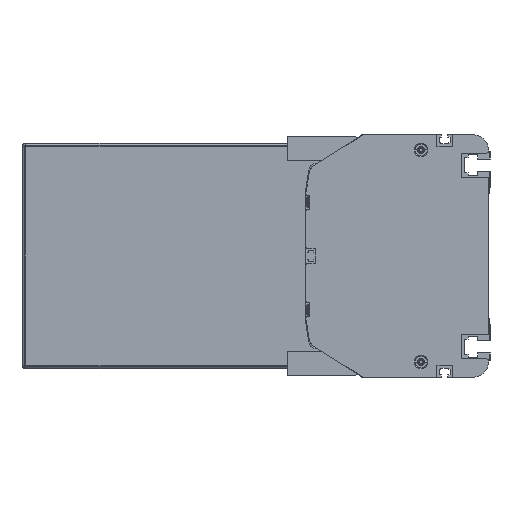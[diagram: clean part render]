
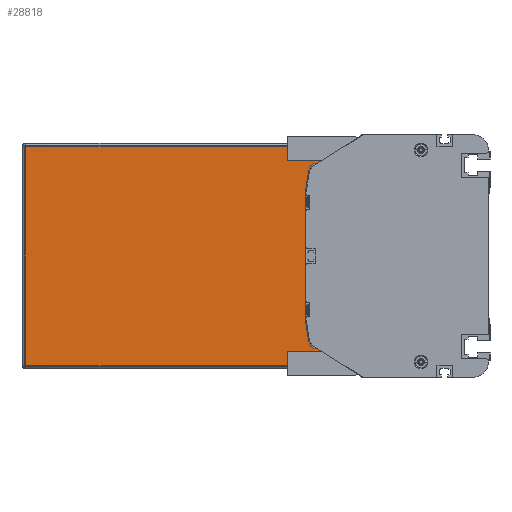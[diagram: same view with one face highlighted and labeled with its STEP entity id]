
A CAD part, left-side view. The second image highlights one B-rep face of the part: STEP entity #28818.
In plain terms, the highlighted planar face has unit normal (-1, 0, 0).
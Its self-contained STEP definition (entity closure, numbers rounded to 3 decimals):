
#779=DIRECTION('',(0.,-1.,0.));
#780=VECTOR('',#779,220.5);
#781=CARTESIAN_POINT('',(586.5,306.5,-72.));
#782=LINE('',#781,#780);
#4261=DIRECTION('',(0.,-1.,0.));
#4262=VECTOR('',#4261,28.728);
#4263=CARTESIAN_POINT('',(586.5,114.728,61.));
#4264=LINE('',#4263,#4262);
#4307=DIRECTION('',(0.,1.,0.));
#4308=VECTOR('',#4307,28.728);
#4309=CARTESIAN_POINT('',(586.5,86.,-61.));
#4310=LINE('',#4309,#4308);
#4320=DIRECTION('',(0.,0.,-1.));
#4321=VECTOR('',#4320,11.);
#4322=CARTESIAN_POINT('',(586.5,86.,-61.));
#4323=LINE('',#4322,#4321);
#4329=DIRECTION('',(0.,0.,-1.));
#4330=VECTOR('',#4329,11.);
#4331=CARTESIAN_POINT('',(586.5,86.,72.));
#4332=LINE('',#4331,#4330);
#10362=CARTESIAN_POINT('',(586.5,114.728,56.));
#10363=DIRECTION('',(-1.,0.,0.));
#10364=DIRECTION('',(0.,0.,1.));
#10365=AXIS2_PLACEMENT_3D('',#10362,#10363,#10364);
#10367=DIRECTION('',(0.,0.156,-0.988));
#10368=VECTOR('',#10367,14.963);
#10369=CARTESIAN_POINT('',(586.5,119.666,56.78));
#10370=LINE('',#10369,#10368);
#10371=DIRECTION('',(0.,-0.156,-0.988));
#10372=VECTOR('',#10371,14.963);
#10373=CARTESIAN_POINT('',(586.5,122.,-42.));
#10374=LINE('',#10373,#10372);
#10375=CARTESIAN_POINT('',(586.5,114.728,-56.));
#10376=DIRECTION('',(-1.,0.,0.));
#10377=DIRECTION('',(0.,0.988,-0.156));
#10378=AXIS2_PLACEMENT_3D('',#10375,#10376,#10377);
#10384=DIRECTION('',(0.,0.,-1.));
#10385=VECTOR('',#10384,144.);
#10386=CARTESIAN_POINT('',(586.5,306.5,72.));
#10387=LINE('',#10386,#10385);
#10475=DIRECTION('',(0.,1.,0.));
#10476=VECTOR('',#10475,220.5);
#10477=CARTESIAN_POINT('',(586.5,86.,72.));
#10478=LINE('',#10477,#10476);
#10766=DIRECTION('',(0.,0.,1.));
#10767=VECTOR('',#10766,84.);
#10768=CARTESIAN_POINT('',(586.5,122.,-42.));
#10769=LINE('',#10768,#10767);
#12661=CARTESIAN_POINT('',(586.5,306.5,-72.));
#12662=CARTESIAN_POINT('',(586.5,86.,-72.));
#12663=VERTEX_POINT('',#12661);
#12664=VERTEX_POINT('',#12662);
#12665=CARTESIAN_POINT('',(586.5,86.,-61.));
#12666=VERTEX_POINT('',#12665);
#12667=CARTESIAN_POINT('',(586.5,114.728,-61.));
#12668=VERTEX_POINT('',#12667);
#12669=CARTESIAN_POINT('',(586.5,119.666,-56.78));
#12670=VERTEX_POINT('',#12669);
#12671=CARTESIAN_POINT('',(586.5,122.,-42.));
#12672=VERTEX_POINT('',#12671);
#12673=CARTESIAN_POINT('',(586.5,122.,42.));
#12674=VERTEX_POINT('',#12673);
#12675=CARTESIAN_POINT('',(586.5,119.666,56.78));
#12676=VERTEX_POINT('',#12675);
#12677=CARTESIAN_POINT('',(586.5,114.728,61.));
#12678=VERTEX_POINT('',#12677);
#12679=CARTESIAN_POINT('',(586.5,86.,61.));
#12680=VERTEX_POINT('',#12679);
#12681=CARTESIAN_POINT('',(586.5,86.,72.));
#12682=VERTEX_POINT('',#12681);
#12683=CARTESIAN_POINT('',(586.5,306.5,72.));
#12684=VERTEX_POINT('',#12683);
#28792=CARTESIAN_POINT('',(586.5,196.25,0.));
#28793=DIRECTION('',(1.,0.,0.));
#28794=DIRECTION('',(0.,0.,-1.));
#28795=AXIS2_PLACEMENT_3D('',#28792,#28793,#28794);
#28796=PLANE('',#28795);
#28797=ORIENTED_EDGE('',*,*,#16582,.F.);
#28799=ORIENTED_EDGE('',*,*,#28798,.F.);
#28801=ORIENTED_EDGE('',*,*,#28800,.F.);
#28802=ORIENTED_EDGE('',*,*,#20435,.T.);
#28803=ORIENTED_EDGE('',*,*,#20342,.F.);
#28805=ORIENTED_EDGE('',*,*,#28804,.T.);
#28807=ORIENTED_EDGE('',*,*,#28806,.T.);
#28809=ORIENTED_EDGE('',*,*,#28808,.F.);
#28811=ORIENTED_EDGE('',*,*,#28810,.T.);
#28813=ORIENTED_EDGE('',*,*,#28812,.T.);
#28814=ORIENTED_EDGE('',*,*,#20393,.F.);
#28815=ORIENTED_EDGE('',*,*,#20409,.T.);
#28816=EDGE_LOOP('',(#28797,#28799,#28801,#28802,#28803,#28805,#28807,#28809,
#28811,#28813,#28814,#28815));
#28817=FACE_OUTER_BOUND('',#28816,.F.);
#28818=ADVANCED_FACE('',(#28817),#28796,.F.);
#10366=CIRCLE('',#10365,5.);
#10379=CIRCLE('',#10378,5.);
#16582=EDGE_CURVE('',#12663,#12664,#782,.T.);
#20342=EDGE_CURVE('',#12678,#12680,#4264,.T.);
#20393=EDGE_CURVE('',#12666,#12668,#4310,.T.);
#20409=EDGE_CURVE('',#12666,#12664,#4323,.T.);
#20435=EDGE_CURVE('',#12682,#12680,#4332,.T.);
#28798=EDGE_CURVE('',#12684,#12663,#10387,.T.);
#28800=EDGE_CURVE('',#12682,#12684,#10478,.T.);
#28804=EDGE_CURVE('',#12678,#12676,#10366,.T.);
#28806=EDGE_CURVE('',#12676,#12674,#10370,.T.);
#28808=EDGE_CURVE('',#12672,#12674,#10769,.T.);
#28810=EDGE_CURVE('',#12672,#12670,#10374,.T.);
#28812=EDGE_CURVE('',#12670,#12668,#10379,.T.);
